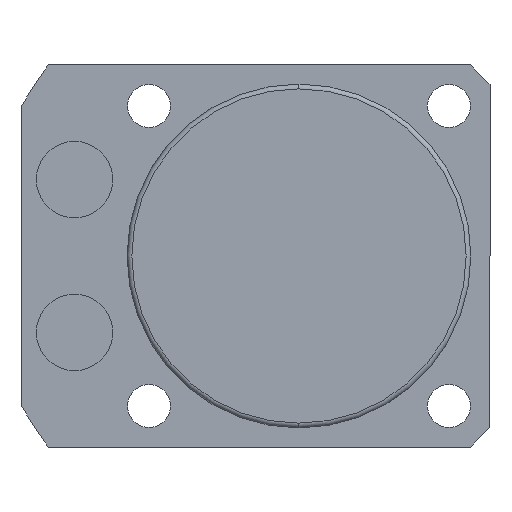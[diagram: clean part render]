
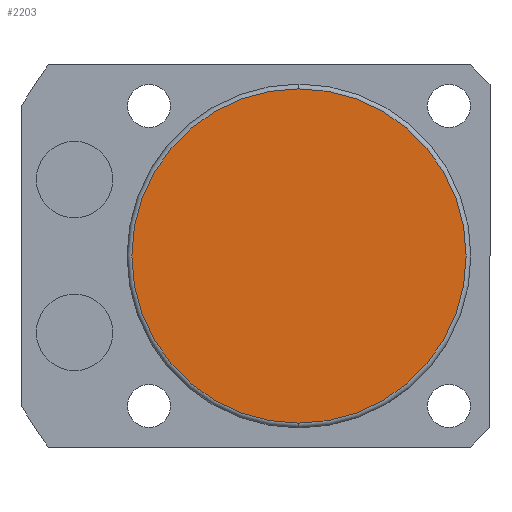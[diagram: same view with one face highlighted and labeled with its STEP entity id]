
A CAD part, front view. The second image highlights one B-rep face of the part: STEP entity #2203.
In plain terms, the highlighted planar face has unit normal (0, -1, 0).
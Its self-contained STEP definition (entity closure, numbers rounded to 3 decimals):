
#275 = VERTEX_POINT ( 'NONE', #2071 ) ;
#310 = ORIENTED_EDGE ( 'NONE', *, *, #656, .T. ) ;
#492 = VERTEX_POINT ( 'NONE', #776 ) ;
#563 = DIRECTION ( 'NONE',  ( 0., 0., -1. ) ) ;
#656 = EDGE_CURVE ( 'NONE', #492, #275, #1294, .T. ) ;
#677 = DIRECTION ( 'NONE',  ( 0., -1., 0. ) ) ;
#757 = DIRECTION ( 'NONE',  ( 0., -1., 0. ) ) ;
#776 = CARTESIAN_POINT ( 'NONE',  ( 0., -120.5, 17.5 ) ) ;
#797 = EDGE_CURVE ( 'NONE', #275, #492, #1583, .T. ) ;
#816 = FACE_OUTER_BOUND ( 'NONE', #2425, .T. ) ;
#1221 = CARTESIAN_POINT ( 'NONE',  ( 0., -120.5, 0. ) ) ;
#1294 = CIRCLE ( 'NONE', #2231, 17.5 ) ;
#1356 = PLANE ( 'NONE',  #2005 ) ;
#1376 = CARTESIAN_POINT ( 'NONE',  ( 0., -120.5, 0. ) ) ;
#1583 = CIRCLE ( 'NONE', #2175, 17.5 ) ;
#1929 = DIRECTION ( 'NONE',  ( 0., -1., 0. ) ) ;
#2002 = DIRECTION ( 'NONE',  ( 0., 0., -1. ) ) ;
#2005 = AXIS2_PLACEMENT_3D ( 'NONE', #1376, #1929, #2113 ) ;
#2066 = ORIENTED_EDGE ( 'NONE', *, *, #797, .T. ) ;
#2071 = CARTESIAN_POINT ( 'NONE',  ( 0., -120.5, -17.5 ) ) ;
#2087 = CARTESIAN_POINT ( 'NONE',  ( 0., -120.5, 0. ) ) ;
#2113 = DIRECTION ( 'NONE',  ( 0., 0., -1. ) ) ;
#2175 = AXIS2_PLACEMENT_3D ( 'NONE', #2087, #757, #563 ) ;
#2203 = ADVANCED_FACE ( 'NONE', ( #816 ), #1356, .T. ) ;
#2231 = AXIS2_PLACEMENT_3D ( 'NONE', #1221, #677, #2002 ) ;
#2425 = EDGE_LOOP ( 'NONE', ( #2066, #310 ) ) ;
